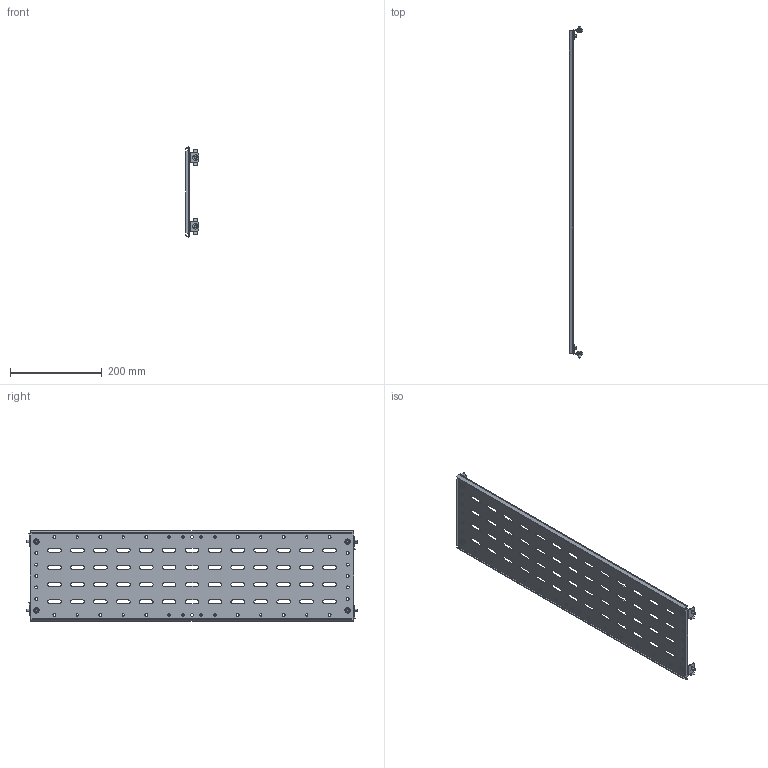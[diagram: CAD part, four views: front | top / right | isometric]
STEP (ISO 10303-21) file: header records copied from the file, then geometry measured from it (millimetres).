
FILE_DESCRIPTION (( 'STEP AP214' ), '1' );
FILE_NAME ('FO-00-SWF-020-080 Ïåðåãîðîäêà ñåêöèîíèðîâàíèÿ çàäíÿÿ 200õ800 ìì.STEP', '2025-08-12T09:03:35', ( '' ), ( '' ), 'SwSTEP 2.0', 'SolidWorks 2023', '' );
FILE_SCHEMA (( 'AUTOMOTIVE_DESIGN' ));
Length unit declared in the file: millimetre
Products named in the file (1): FO-00-SWF-020-080 Перегородка секционирования задняя 200х800 мм
Bounding box: 30.52 x 724 x 197.66 mm (x, y, z)
Volume: 223075 mm3; surface area: 298777.3 mm2
Topology: 1 solids, 5 shells, 732 faces, 2038 edges, 1336 vertices
Faces by surface type: cylinder 412, plane 264, cone 24, torus 24, sphere 8
Entity records: 24229 total; most frequent: CARTESIAN_POINT 4375, DIRECTION 4276, ORIENTED_EDGE 4076, EDGE_CURVE 2038, AXIS2_PLACEMENT_3D 1573, VERTEX_POINT 1336, VECTOR 1130, LINE 1130
